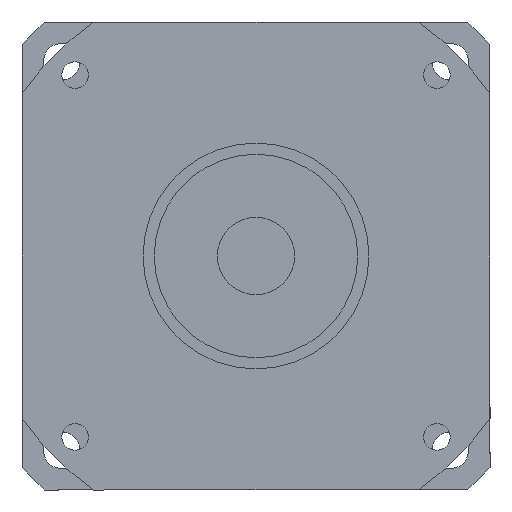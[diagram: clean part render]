
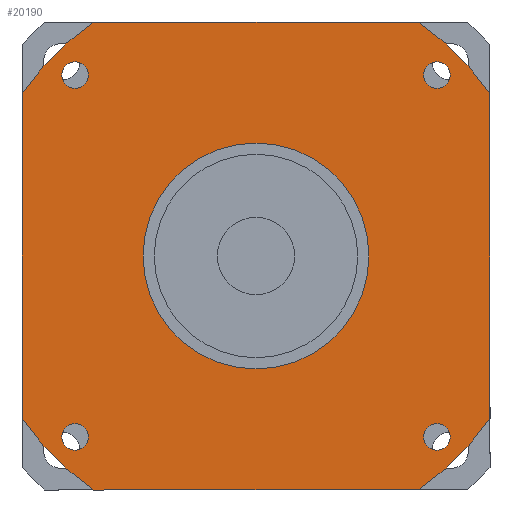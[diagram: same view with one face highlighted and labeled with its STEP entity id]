
A CAD part, left-side view. The second image highlights one B-rep face of the part: STEP entity #20190.
In plain terms, the highlighted planar face has unit normal (-1, 0, 0) as drawn and (0, 0, -1) by its records, which use the part's own axes.
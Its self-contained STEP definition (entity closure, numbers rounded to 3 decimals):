
#16070=CARTESIAN_POINT('',(39.922,57.5,-101.));
#16080=VERTEX_POINT('',#16070);
#16110=CARTESIAN_POINT('',(0.,0.,
-101.));
#16120=DIRECTION('',(0.,0.,1.));
#16130=DIRECTION('',(0.,-1.,0.));
#16140=AXIS2_PLACEMENT_3D('',#16110,#16120,#16130);
#16150=CIRCLE('',#16140,70.);
#16160=CARTESIAN_POINT('',(57.5,39.922,-101.));
#16170=VERTEX_POINT('',#16160);
#16180=EDGE_CURVE('',#16170,#16080,#16150,.T.);
#16430=CARTESIAN_POINT('',(0.,0.,
-101.));
#16440=DIRECTION('',(0.,0.,1.));
#16450=DIRECTION('',(0.,-1.,0.));
#16460=AXIS2_PLACEMENT_3D('',#16430,#16440,#16450);
#16470=CIRCLE('',#16460,27.76);
#16480=CARTESIAN_POINT('',(0.,-27.76,-101.));
#16490=VERTEX_POINT('',#16480);
#16500=CARTESIAN_POINT('',(27.76,0.,-101.));
#16510=VERTEX_POINT('',#16500);
#16520=EDGE_CURVE('',#16490,#16510,#16470,.T.);
#16650=CARTESIAN_POINT('',(-27.76,0.,-101.));
#16660=VERTEX_POINT('',#16650);
#16690=EDGE_CURVE('',#16660,#16490,#16470,.T.);
#18580=CARTESIAN_POINT('',(-41.199,-44.449,-101.));
#18590=VERTEX_POINT('',#18580);
#18670=CARTESIAN_POINT('',(-47.699,-44.449,-101.));
#18680=VERTEX_POINT('',#18670);
#18710=CARTESIAN_POINT('',(-44.449,-44.449,-101.));
#18720=DIRECTION('',(0.,0.,-1.));
#18730=DIRECTION('',(0.,-1.,0.));
#18740=AXIS2_PLACEMENT_3D('',#18710,#18720,#18730);
#18750=CIRCLE('',#18740,3.25);
#18760=CARTESIAN_POINT('',(-44.449,-47.699,-101.));
#18770=VERTEX_POINT('',#18760);
#18780=EDGE_CURVE('',#18770,#18680,#18750,.T.);
#18800=EDGE_CURVE('',#18590,#18770,#18750,.T.);
#18850=CARTESIAN_POINT('',(-57.5,57.5,-101.));
#18860=DIRECTION('',(0.,0.,1.));
#18870=DIRECTION('',(-1.,0.,0.));
#18880=AXIS2_PLACEMENT_3D('',#18850,#18860,#18870);
#18890=PLANE('',#18880);
#18900=CARTESIAN_POINT('',(44.449,-44.449,-101.));
#18910=DIRECTION('',(0.,0.,-1.));
#18920=DIRECTION('',(1.,0.,0.));
#18930=AXIS2_PLACEMENT_3D('',#18900,#18910,#18920);
#18940=CIRCLE('',#18930,3.25);
#18950=CARTESIAN_POINT('',(47.699,-44.449,-101.));
#18960=VERTEX_POINT('',#18950);
#18970=CARTESIAN_POINT('',(44.449,-47.699,-101.));
#18980=VERTEX_POINT('',#18970);
#18990=EDGE_CURVE('',#18960,#18980,#18940,.T.);
#19000=ORIENTED_EDGE('',*,*,#18990,.F.);
#19010=CARTESIAN_POINT('',(44.449,-41.199,-101.));
#19020=VERTEX_POINT('',#19010);
#19030=EDGE_CURVE('',#18980,#19020,#18940,.T.);
#19040=ORIENTED_EDGE('',*,*,#19030,.F.);
#19050=EDGE_CURVE('',#19020,#18960,#18940,.T.);
#19060=ORIENTED_EDGE('',*,*,#19050,.F.);
#19070=EDGE_LOOP('',(#19060,#19040,#19000));
#19080=FACE_BOUND('',#19070,.T.);
#19090=CARTESIAN_POINT('',(44.449,44.449,-101.));
#19100=DIRECTION('',(0.,0.,-1.));
#19110=DIRECTION('',(0.,1.,0.));
#19120=AXIS2_PLACEMENT_3D('',#19090,#19100,#19110);
#19130=CIRCLE('',#19120,3.25);
#19140=CARTESIAN_POINT('',(44.449,47.699,-101.));
#19150=VERTEX_POINT('',#19140);
#19160=CARTESIAN_POINT('',(47.699,44.449,-101.));
#19170=VERTEX_POINT('',#19160);
#19180=EDGE_CURVE('',#19150,#19170,#19130,.T.);
#19190=ORIENTED_EDGE('',*,*,#19180,.F.);
#19200=CARTESIAN_POINT('',(41.199,44.449,-101.));
#19210=VERTEX_POINT('',#19200);
#19220=EDGE_CURVE('',#19170,#19210,#19130,.T.);
#19230=ORIENTED_EDGE('',*,*,#19220,.F.);
#19240=EDGE_CURVE('',#19210,#19150,#19130,.T.);
#19250=ORIENTED_EDGE('',*,*,#19240,.F.);
#19260=EDGE_LOOP('',(#19250,#19230,#19190));
#19270=FACE_BOUND('',#19260,.T.);
#19280=CARTESIAN_POINT('',(-44.449,44.449,-101.));
#19290=DIRECTION('',(0.,0.,-1.));
#19300=DIRECTION('',(-1.,0.,0.));
#19310=AXIS2_PLACEMENT_3D('',#19280,#19290,#19300);
#19320=CIRCLE('',#19310,3.25);
#19330=CARTESIAN_POINT('',(-47.699,44.449,-101.));
#19340=VERTEX_POINT('',#19330);
#19350=CARTESIAN_POINT('',(-44.449,47.699,-101.));
#19360=VERTEX_POINT('',#19350);
#19370=EDGE_CURVE('',#19340,#19360,#19320,.T.);
#19380=ORIENTED_EDGE('',*,*,#19370,.F.);
#19390=CARTESIAN_POINT('',(-44.449,41.199,-101.));
#19400=VERTEX_POINT('',#19390);
#19410=EDGE_CURVE('',#19360,#19400,#19320,.T.);
#19420=ORIENTED_EDGE('',*,*,#19410,.F.);
#19430=EDGE_CURVE('',#19400,#19340,#19320,.T.);
#19440=ORIENTED_EDGE('',*,*,#19430,.F.);
#19450=EDGE_LOOP('',(#19440,#19420,#19380));
#19460=FACE_BOUND('',#19450,.T.);
#19470=ORIENTED_EDGE('',*,*,#18780,.F.);
#19480=EDGE_CURVE('',#18680,#18590,#18750,.T.);
#19490=ORIENTED_EDGE('',*,*,#19480,.F.);
#19500=ORIENTED_EDGE('',*,*,#18800,.F.);
#19510=EDGE_LOOP('',(#19500,#19490,#19470));
#19520=FACE_BOUND('',#19510,.T.);
#19530=CARTESIAN_POINT('',(0.,0.,
-101.));
#19540=DIRECTION('',(0.,0.,1.));
#19550=DIRECTION('',(0.,-1.,0.));
#19560=AXIS2_PLACEMENT_3D('',#19530,#19540,#19550);
#19570=CIRCLE('',#19560,70.);
#19580=CARTESIAN_POINT('',(-57.5,-39.922,-101.));
#19590=VERTEX_POINT('',#19580);
#19600=CARTESIAN_POINT('',(-39.922,-57.5,-101.));
#19610=VERTEX_POINT('',#19600);
#19620=EDGE_CURVE('',#19590,#19610,#19570,.T.);
#19630=ORIENTED_EDGE('',*,*,#19620,.F.);
#19640=CARTESIAN_POINT('',(-57.5,-57.5,-101.));
#19650=DIRECTION('',(1.,0.,0.));
#19660=VECTOR('',#19650,1000.);
#19670=LINE('',#19640,#19660);
#19680=CARTESIAN_POINT('',(39.922,-57.5,-101.));
#19690=VERTEX_POINT('',#19680);
#19700=EDGE_CURVE('',#19610,#19690,#19670,.T.);
#19710=ORIENTED_EDGE('',*,*,#19700,.F.);
#19720=CARTESIAN_POINT('',(0.,0.,
-101.));
#19730=DIRECTION('',(0.,0.,1.));
#19740=DIRECTION('',(0.,-1.,0.));
#19750=AXIS2_PLACEMENT_3D('',#19720,#19730,#19740);
#19760=CIRCLE('',#19750,70.);
#19770=CARTESIAN_POINT('',(57.5,-39.922,-101.));
#19780=VERTEX_POINT('',#19770);
#19790=EDGE_CURVE('',#19690,#19780,#19760,.T.);
#19800=ORIENTED_EDGE('',*,*,#19790,.F.);
#19810=CARTESIAN_POINT('',(57.5,-57.5,-101.));
#19820=DIRECTION('',(0.,1.,0.));
#19830=VECTOR('',#19820,1000.);
#19840=LINE('',#19810,#19830);
#19850=EDGE_CURVE('',#19780,#16170,#19840,.T.);
#19860=ORIENTED_EDGE('',*,*,#19850,.F.);
#19870=ORIENTED_EDGE('',*,*,#16180,.F.);
#19880=CARTESIAN_POINT('',(57.5,57.5,-101.));
#19890=DIRECTION('',(-1.,0.,0.));
#19900=VECTOR('',#19890,1000.);
#19910=LINE('',#19880,#19900);
#19920=CARTESIAN_POINT('',(-39.922,57.5,-101.));
#19930=VERTEX_POINT('',#19920);
#19940=EDGE_CURVE('',#16080,#19930,#19910,.T.);
#19950=ORIENTED_EDGE('',*,*,#19940,.F.);
#19960=CARTESIAN_POINT('',(0.,0.,
-101.));
#19970=DIRECTION('',(0.,0.,1.));
#19980=DIRECTION('',(0.,-1.,0.));
#19990=AXIS2_PLACEMENT_3D('',#19960,#19970,#19980);
#20000=CIRCLE('',#19990,70.);
#20010=CARTESIAN_POINT('',(-57.5,39.922,-101.));
#20020=VERTEX_POINT('',#20010);
#20030=EDGE_CURVE('',#19930,#20020,#20000,.T.);
#20040=ORIENTED_EDGE('',*,*,#20030,.F.);
#20050=CARTESIAN_POINT('',(-57.5,57.5,-101.));
#20060=DIRECTION('',(0.,-1.,0.));
#20070=VECTOR('',#20060,1000.);
#20080=LINE('',#20050,#20070);
#20090=EDGE_CURVE('',#20020,#19590,#20080,.T.);
#20100=ORIENTED_EDGE('',*,*,#20090,.F.);
#20110=EDGE_LOOP('',(#20100,#20040,#19950,#19870,#19860,#19800,#19710,
#19630));
#20120=FACE_OUTER_BOUND('',#20110,.T.);
#20130=EDGE_CURVE('',#16510,#16660,#16470,.T.);
#20140=ORIENTED_EDGE('',*,*,#20130,.T.);
#20150=ORIENTED_EDGE('',*,*,#16520,.T.);
#20160=ORIENTED_EDGE('',*,*,#16690,.T.);
#20170=EDGE_LOOP('',(#20160,#20150,#20140));
#20180=FACE_BOUND('',#20170,.T.);
#20190=ADVANCED_FACE('',(#19080,#19270,#19460,#19520,#20120,#20180),
#18890,.F.);
